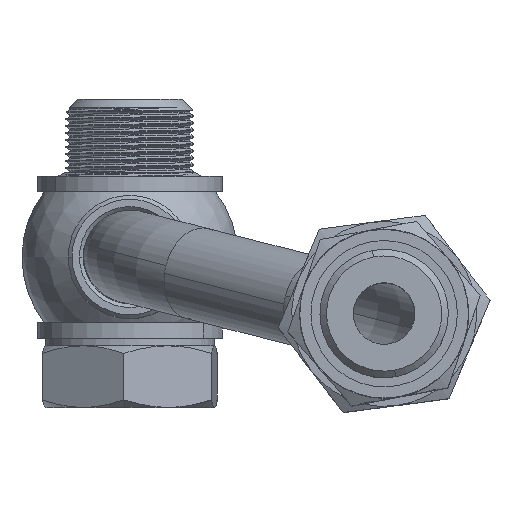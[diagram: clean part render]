
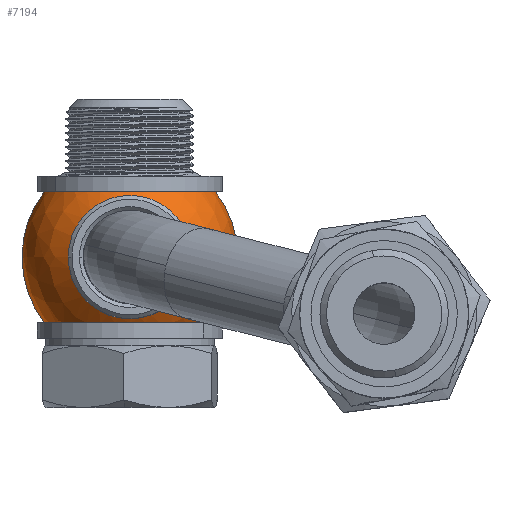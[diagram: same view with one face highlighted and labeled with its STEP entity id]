
A CAD part, top view. The second image highlights one B-rep face of the part: STEP entity #7194.
In plain terms, the highlighted spherical face has radius 14 mm.
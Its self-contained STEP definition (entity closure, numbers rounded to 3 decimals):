
#391 = SPHERICAL_SURFACE ( 'NONE', #4569, 14. ) ;
#639 = AXIS2_PLACEMENT_3D ( 'NONE', #2626, #6502, #4945 ) ;
#917 = ORIENTED_EDGE ( 'NONE', *, *, #2052, .F. ) ;
#987 = DIRECTION ( 'NONE',  ( 0., 0., -1. ) ) ;
#1126 = FACE_BOUND ( 'NONE', #8650, .T. ) ;
#1243 = AXIS2_PLACEMENT_3D ( 'NONE', #2106, #1548, #7366 ) ;
#1538 = DIRECTION ( 'NONE',  ( 0., -1., 0. ) ) ;
#1548 = DIRECTION ( 'NONE',  ( 0., 0., -1. ) ) ;
#1638 = CARTESIAN_POINT ( 'NONE',  ( 122.314, 11.568, -80.627 ) ) ;
#1777 = CIRCLE ( 'NONE', #9496, 11.124 ) ;
#1781 = DIRECTION ( 'NONE',  ( 0., -1., 0. ) ) ;
#1866 = DIRECTION ( 'NONE',  ( 0., 0., 1. ) ) ;
#2015 = CARTESIAN_POINT ( 'NONE',  ( 122.314, 3.068, -69.138 ) ) ;
#2052 = EDGE_CURVE ( 'NONE', #7101, #3524, #7882, .T. ) ;
#2106 = CARTESIAN_POINT ( 'NONE',  ( 122.314, 3.068, -80.627 ) ) ;
#2369 = CARTESIAN_POINT ( 'NONE',  ( 122.314, -5.432, -80.627 ) ) ;
#2586 = ORIENTED_EDGE ( 'NONE', *, *, #3108, .F. ) ;
#2626 = CARTESIAN_POINT ( 'NONE',  ( 122.314, 3.068, -80.627 ) ) ;
#2787 = ORIENTED_EDGE ( 'NONE', *, *, #3214, .T. ) ;
#3021 = CARTESIAN_POINT ( 'NONE',  ( 133.438, 11.568, -80.627 ) ) ;
#3108 = EDGE_CURVE ( 'NONE', #3524, #7101, #3365, .T. ) ;
#3214 = EDGE_CURVE ( 'NONE', #3279, #9739, #1777, .T. ) ;
#3279 = VERTEX_POINT ( 'NONE', #3021 ) ;
#3365 = CIRCLE ( 'NONE', #3678, 8. ) ;
#3524 = VERTEX_POINT ( 'NONE', #7467 ) ;
#3544 = DIRECTION ( 'NONE',  ( -1., 0., 0. ) ) ;
#3678 = AXIS2_PLACEMENT_3D ( 'NONE', #7306, #8840, #4400 ) ;
#3805 = EDGE_LOOP ( 'NONE', ( #5766, #2787, #7420, #9730 ) ) ;
#4400 = DIRECTION ( 'NONE',  ( -1., 0., 0. ) ) ;
#4569 = AXIS2_PLACEMENT_3D ( 'NONE', #5678, #5083, #3544 ) ;
#4754 = VERTEX_POINT ( 'NONE', #5163 ) ;
#4934 = CARTESIAN_POINT ( 'NONE',  ( 130.314, 3.068, -69.138 ) ) ;
#4937 = CIRCLE ( 'NONE', #6494, 11.124 ) ;
#4945 = DIRECTION ( 'NONE',  ( 1., 0., 0. ) ) ;
#5083 = DIRECTION ( 'NONE',  ( 0., 0., -1. ) ) ;
#5163 = CARTESIAN_POINT ( 'NONE',  ( 111.19, -5.432, -80.627 ) ) ;
#5499 = EDGE_CURVE ( 'NONE', #7153, #4754, #4937, .T. ) ;
#5678 = CARTESIAN_POINT ( 'NONE',  ( 122.314, 3.068, -80.627 ) ) ;
#5766 = ORIENTED_EDGE ( 'NONE', *, *, #9069, .F. ) ;
#5972 = CIRCLE ( 'NONE', #1243, 14. ) ;
#6462 = AXIS2_PLACEMENT_3D ( 'NONE', #2015, #1866, #9512 ) ;
#6494 = AXIS2_PLACEMENT_3D ( 'NONE', #2369, #1781, #987 ) ;
#6502 = DIRECTION ( 'NONE',  ( 0., 0., 1. ) ) ;
#6571 = EDGE_CURVE ( 'NONE', #9739, #4754, #7399, .T. ) ;
#7101 = VERTEX_POINT ( 'NONE', #4934 ) ;
#7153 = VERTEX_POINT ( 'NONE', #7227 ) ;
#7194 = ADVANCED_FACE ( 'NONE', ( #7280, #1126 ), #391, .T. ) ;
#7227 = CARTESIAN_POINT ( 'NONE',  ( 133.438, -5.432, -80.627 ) ) ;
#7280 = FACE_OUTER_BOUND ( 'NONE', #3805, .T. ) ;
#7306 = CARTESIAN_POINT ( 'NONE',  ( 122.314, 3.068, -69.138 ) ) ;
#7366 = DIRECTION ( 'NONE',  ( -1., 0., 0. ) ) ;
#7399 = CIRCLE ( 'NONE', #639, 14. ) ;
#7420 = ORIENTED_EDGE ( 'NONE', *, *, #6571, .T. ) ;
#7467 = CARTESIAN_POINT ( 'NONE',  ( 114.314, 3.068, -69.138 ) ) ;
#7882 = CIRCLE ( 'NONE', #6462, 8. ) ;
#8072 = CARTESIAN_POINT ( 'NONE',  ( 111.19, 11.568, -80.627 ) ) ;
#8650 = EDGE_LOOP ( 'NONE', ( #2586, #917 ) ) ;
#8840 = DIRECTION ( 'NONE',  ( 0., 0., 1. ) ) ;
#9069 = EDGE_CURVE ( 'NONE', #3279, #7153, #5972, .T. ) ;
#9132 = DIRECTION ( 'NONE',  ( 0., 0., -1. ) ) ;
#9496 = AXIS2_PLACEMENT_3D ( 'NONE', #1638, #1538, #9132 ) ;
#9512 = DIRECTION ( 'NONE',  ( -1., 0., 0. ) ) ;
#9730 = ORIENTED_EDGE ( 'NONE', *, *, #5499, .F. ) ;
#9739 = VERTEX_POINT ( 'NONE', #8072 ) ;
